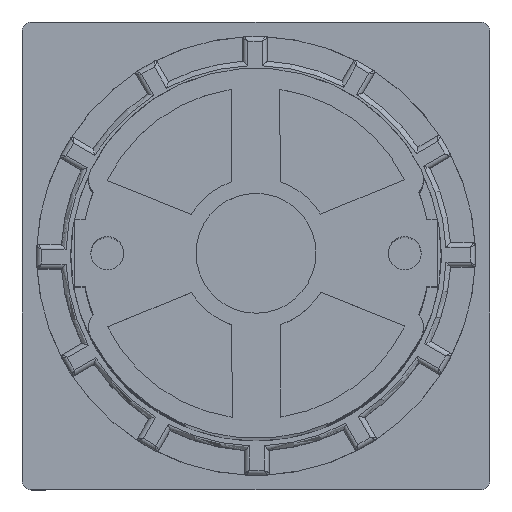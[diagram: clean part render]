
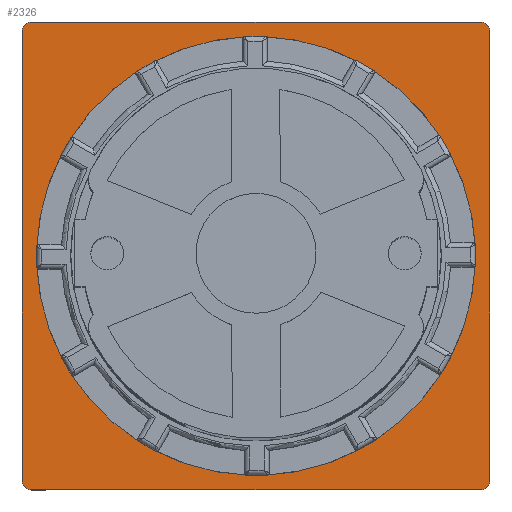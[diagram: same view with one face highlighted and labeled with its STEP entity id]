
A CAD part, top view. The second image highlights one B-rep face of the part: STEP entity #2326.
In plain terms, the highlighted planar face has unit normal (0, 0, 1).
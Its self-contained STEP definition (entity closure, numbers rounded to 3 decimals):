
#2326=ADVANCED_FACE('',(#12059,#12060),#4072,.F.);
#4072=PLANE('',#34286);
#5648=LINE('',#47853,#8662);
#5649=LINE('',#47858,#8663);
#5650=LINE('',#47862,#8664);
#5651=LINE('',#47866,#8665);
#8662=VECTOR('',#37836,1.);
#8663=VECTOR('',#37839,1.);
#8664=VECTOR('',#37842,1.);
#8665=VECTOR('',#37845,1.);
#12059=FACE_BOUND('',#12827,.T.);
#12060=FACE_BOUND('',#12828,.T.);
#12827=EDGE_LOOP('',(#15593,#15594,#15595,#15596,#15597,#15598,#15599,#15600));
#12828=EDGE_LOOP('',(#15601));
#15593=ORIENTED_EDGE('',*,*,#28342,.F.);
#15594=ORIENTED_EDGE('',*,*,#28343,.F.);
#15595=ORIENTED_EDGE('',*,*,#28344,.F.);
#15596=ORIENTED_EDGE('',*,*,#28345,.F.);
#15597=ORIENTED_EDGE('',*,*,#28346,.F.);
#15598=ORIENTED_EDGE('',*,*,#28347,.F.);
#15599=ORIENTED_EDGE('',*,*,#28348,.F.);
#15600=ORIENTED_EDGE('',*,*,#28349,.F.);
#15601=ORIENTED_EDGE('',*,*,#28304,.T.);
#24872=VERTEX_POINT('',#47758);
#24890=VERTEX_POINT('',#47854);
#24891=VERTEX_POINT('',#47855);
#24892=VERTEX_POINT('',#47857);
#24893=VERTEX_POINT('',#47859);
#24894=VERTEX_POINT('',#47861);
#24895=VERTEX_POINT('',#47863);
#24896=VERTEX_POINT('',#47865);
#24897=VERTEX_POINT('',#47867);
#28304=EDGE_CURVE('',#24872,#24872,#32922,.T.);
#28342=EDGE_CURVE('',#24890,#24891,#5648,.T.);
#28343=EDGE_CURVE('',#24892,#24890,#32952,.T.);
#28344=EDGE_CURVE('',#24893,#24892,#5649,.T.);
#28345=EDGE_CURVE('',#24894,#24893,#32953,.T.);
#28346=EDGE_CURVE('',#24895,#24894,#5650,.T.);
#28347=EDGE_CURVE('',#24896,#24895,#32954,.T.);
#28348=EDGE_CURVE('',#24897,#24896,#5651,.T.);
#28349=EDGE_CURVE('',#24891,#24897,#32955,.T.);
#32922=CIRCLE('',#34244,22.5);
#32952=CIRCLE('',#34282,1.);
#32953=CIRCLE('',#34283,1.);
#32954=CIRCLE('',#34284,1.);
#32955=CIRCLE('',#34285,1.);
#34244=AXIS2_PLACEMENT_3D('',#47757,#37752,#37753);
#34282=AXIS2_PLACEMENT_3D('',#47856,#37837,#37838);
#34283=AXIS2_PLACEMENT_3D('',#47860,#37840,#37841);
#34284=AXIS2_PLACEMENT_3D('',#47864,#37843,#37844);
#34285=AXIS2_PLACEMENT_3D('',#47868,#37846,#37847);
#34286=AXIS2_PLACEMENT_3D('',#47869,#37848,#37849);
#37752=DIRECTION('',(0.,0.,-1.));
#37753=DIRECTION('',(0.,1.,0.));
#37836=DIRECTION('',(0.,1.,0.));
#37837=DIRECTION('',(0.,0.,-1.));
#37838=DIRECTION('',(1.,0.,0.));
#37839=DIRECTION('',(-1.,0.,0.));
#37840=DIRECTION('',(0.,0.,-1.));
#37841=DIRECTION('',(1.,0.,0.));
#37842=DIRECTION('',(0.,-1.,0.));
#37843=DIRECTION('',(0.,0.,-1.));
#37844=DIRECTION('',(1.,0.,0.));
#37845=DIRECTION('',(1.,0.,0.));
#37846=DIRECTION('',(0.,0.,-1.));
#37847=DIRECTION('',(1.,0.,0.));
#37848=DIRECTION('',(0.,0.,-1.));
#37849=DIRECTION('',(-1.,0.,0.));
#47757=CARTESIAN_POINT('',(0.,0.,-18.4));
#47758=CARTESIAN_POINT('',(0.,22.5,-18.4));
#47853=CARTESIAN_POINT('',(-24.,-23.,-18.4));
#47854=CARTESIAN_POINT('',(-24.,-23.,-18.4));
#47855=CARTESIAN_POINT('',(-24.,23.,-18.4));
#47856=CARTESIAN_POINT('',(-23.,-23.,-18.4));
#47857=CARTESIAN_POINT('',(-23.,-24.,-18.4));
#47858=CARTESIAN_POINT('',(23.,-24.,-18.4));
#47859=CARTESIAN_POINT('',(23.,-24.,-18.4));
#47860=CARTESIAN_POINT('',(23.,-23.,-18.4));
#47861=CARTESIAN_POINT('',(24.,-23.,-18.4));
#47862=CARTESIAN_POINT('',(24.,23.,-18.4));
#47863=CARTESIAN_POINT('',(24.,23.,-18.4));
#47864=CARTESIAN_POINT('',(23.,23.,-18.4));
#47865=CARTESIAN_POINT('',(23.,24.,-18.4));
#47866=CARTESIAN_POINT('',(-23.,24.,-18.4));
#47867=CARTESIAN_POINT('',(-23.,24.,-18.4));
#47868=CARTESIAN_POINT('',(-23.,23.,-18.4));
#47869=CARTESIAN_POINT('',(-23.,23.,-18.4));
